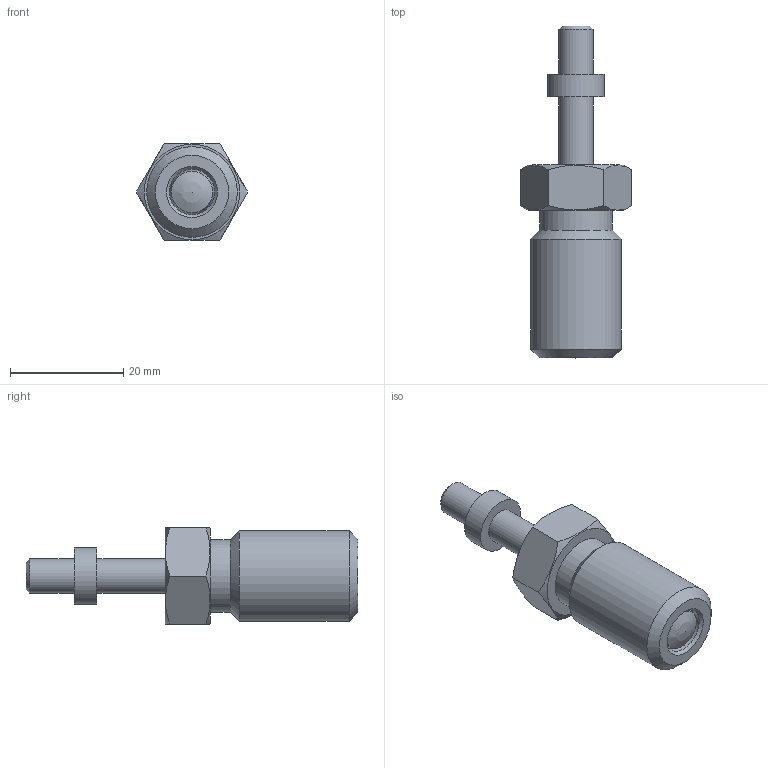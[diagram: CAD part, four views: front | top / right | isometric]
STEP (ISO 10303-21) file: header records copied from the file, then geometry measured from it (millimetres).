
FILE_DESCRIPTION( ( 'STEP AP203' ), '1' );
FILE_NAME( 'C:/Temp/Ganter_Step_05_03_2020/data/3_1/gn817/gn817_ni-rastbolzen/Stainless steel-Indexing plunger GN 817-8-12-G-NI (activated).stp', '2020-03-12T08:59:51', ( 'License CC BY-ND 4.0' ), ( 'CADENAS' ), ' ', 'PARTsolutions', ' ' );
FILE_SCHEMA( ( 'CONFIG_CONTROL_DESIGN' ) );
Length unit declared in the file: millimetre
Products named in the file (4): Stainless steel-Indexing plunger GN 817-8-12-G-NI (activated); _Stainless steel-Indexing plunger GN 817-8-12-G-NI (activated)-d2; _Stainless steel-Indexing plunger GN 817-8-12-B-NI-2; _Stainless Steel-Indexing plunger GN 817-8-12-G-NI-6
Assembly tree (3 placements, depth 2):
  Stainless steel-Indexing plunger GN 817-8-12-G-NI (activated)
    _Stainless steel-Indexing plunger GN 817-8-12-G-NI (activated)-d2
    _Stainless steel-Indexing plunger GN 817-8-12-B-NI-2
    _Stainless Steel-Indexing plunger GN 817-8-12-G-NI-6
Bounding box: 19.63 x 58.5 x 17 mm (x, y, z)
Volume: 7700 mm3; surface area: 4524.6 mm2
Topology: 2 solids, 2 shells, 33 faces, 64 edges, 40 vertices
Faces by surface type: plane 14, cone 8, cylinder 8, torus 2, sphere 1
Full cylindrical faces by diameter (mm): 6 x3, 8 x2, 10 x1, 12.8 x1, 16 x1
Entity records: 971 total; most frequent: CARTESIAN_POINT 243, DIRECTION 130, ORIENTED_EDGE 86, AXIS2_PLACEMENT_3D 62, EDGE_LOOP 58, FACE_OUTER_BOUND 43, EDGE_CURVE 43, VERTEX_POINT 38
